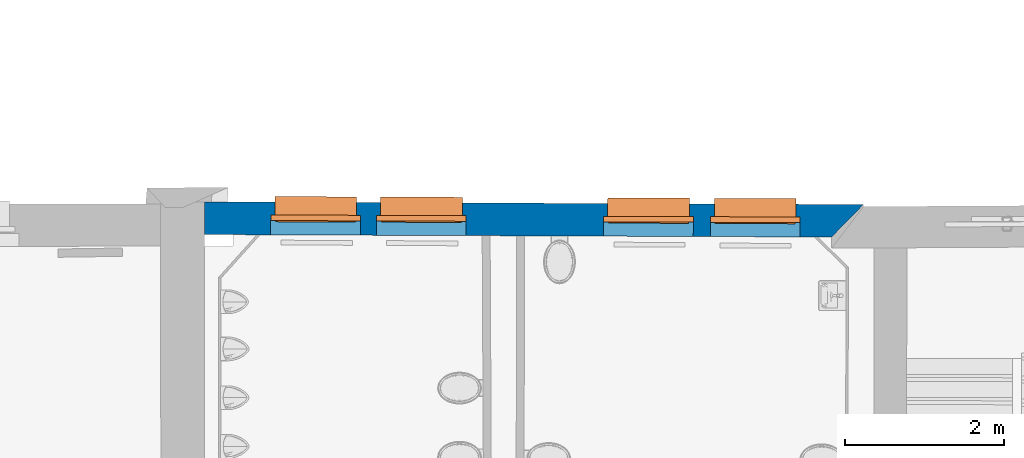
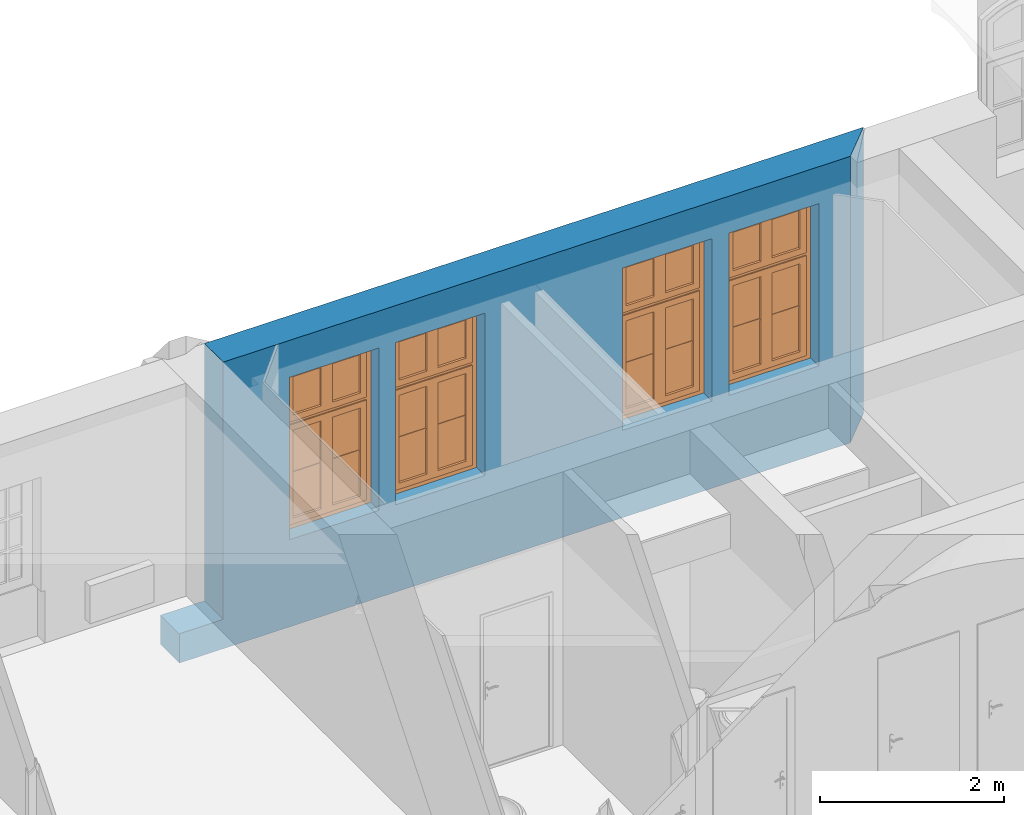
# One storey, part 42 of 158: 4 proxies, 1 wall, 4 openings.
"""IFC2X3 building model written with IfcOpenShell, lengths in metres."""

from ifc_helpers import new_model, entity, si_unit, converted_unit, derived_unit, money_unit, direction, frame, origin_with_axes, origin_2d_with_axis, place, context, subcontext, project, spatial, polyline, rectangle, outline, extrude, boolean, faceted_brep, source, transform, mapped, material, type_object, element, fill, save


model = new_model("IFC2X3")

# Units and contexts
model_context = context("Model", 3, precision=1e-05, world=origin_with_axes(), true_north=direction((0.0, 1.0)))
body_context = subcontext(model_context, "Body", "Model", "MODEL_VIEW")
ifc_project = project(units=[si_unit("LENGTHUNIT", "METRE"), si_unit("AREAUNIT", "SQUARE_METRE"), si_unit("VOLUMEUNIT", "CUBIC_METRE"), converted_unit("PLANEANGLEUNIT", "DEGREE", entity("IfcPlaneAngleMeasure", 0.0174532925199), si_unit("PLANEANGLEUNIT", "RADIAN"), dimensions=[0, 0, 0, 0, 0, 0, 0]), money_unit("EUR"), converted_unit("TIMEUNIT", "Year", entity("IfcTimeMeasure", 31556926.0), si_unit("TIMEUNIT", "SECOND"), dimensions=[0, 0, 1, 0, 0, 0, 0]), si_unit("MASSUNIT", "GRAM", prefix="KILO"), si_unit("THERMODYNAMICTEMPERATUREUNIT", "DEGREE_CELSIUS"), si_unit("LUMINOUSINTENSITYUNIT", "LUMEN"), si_unit("ENERGYUNIT", "JOULE", prefix="MEGA"), derived_unit("THERMALCONDUCTANCEUNIT", [(si_unit("POWERUNIT", "WATT"), 1), (si_unit("LENGTHUNIT", "METRE"), -1), (si_unit("THERMODYNAMICTEMPERATUREUNIT", "KELVIN"), -1)]), derived_unit("SPECIFICHEATCAPACITYUNIT", [(si_unit("ENERGYUNIT", "JOULE"), 1), (si_unit("MASSUNIT", "GRAM", prefix="KILO"), -1), (si_unit("THERMODYNAMICTEMPERATUREUNIT", "KELVIN"), -1)]), derived_unit("MASSDENSITYUNIT", [(si_unit("MASSUNIT", "GRAM", prefix="KILO"), 1), (si_unit("VOLUMEUNIT", "CUBIC_METRE"), -1)])], contexts=[model_context])

# Site, building, storey
site_placement = place(None, origin_with_axes())
site = spatial("IfcSite", under=ifc_project, at=site_placement, Name="Gelände", CompositionType="ELEMENT")
building_placement = place(site_placement, origin_with_axes())
building = spatial("IfcBuilding", under=site, at=building_placement, Name="Gebäude", CompositionType="ELEMENT")
storey_placement = place(building_placement, origin_with_axes())
storey = spatial("IfcBuildingStorey", under=building, at=storey_placement, Name="ERDGESCHOSS", CompositionType="ELEMENT", Elevation=0.0)

# Wall, openings, proxies
ifc_material = material(Name="05_ALLGEMEIN - TRAGENDE BAUTEILE")
wall_type = type_object("IfcWallType", Name="05_ALLGEMEIN - TRAGENDE BAUTEILE 410", PredefinedType="ELEMENTEDWALL")
wall_placement = place(storey_placement, frame((21.3567077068, 26.1948777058, -0.210000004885), z_axis=(0.0, 0.0, 1.0), x_axis=(-0.999992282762, 0.00392866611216, 0.0)))
wall = element("IfcWall", 1, at=wall_placement, inside=storey, type_object=wall_type, material=ifc_material, Name="Wand-033", ObjectType="ELEMENTEDWALL", context=body_context, shape_type="CSG", body=[
    boolean("DIFFERENCE", boolean("DIFFERENCE", extrude(outline(polyline([(-0.00161076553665, 0.0), (8.81806653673, 0.0), (8.81806653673, 0.41), (-0.00161076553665, 0.41), (-0.00161076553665, 0.0)])), origin_with_axes(), (0.0, 0.0, 1.0), 3.81000000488), faceted_brep([(8.81806653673, 0.41, 0.390000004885), (8.2663559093, 0.41, 0.390000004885), (8.2663559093, 0.41, 3.81000000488), (8.81806653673, 0.41, 3.81000000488), (8.81806653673, 0.0, 0.390000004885), (8.26806177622, 0.0, 0.390000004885), (8.26806177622, 0.0, 3.81000000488), (8.81806653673, 0.0, 3.81000000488)], [[[0, 1, 2, 3]], [[1, 0, 4, 5]], [[6, 2, 1, 5]], [[2, 6, 7, 3]], [[4, 0, 3, 7]], [[5, 4, 7, 6]]])), faceted_brep([(0.0, 0.0, 0.0), (0.0, 0.0, 3.81000000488), (-0.00161076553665, 0.0, 3.81000000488), (-0.00161076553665, 0.0, 0.0), (0.398392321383, 0.41, 3.81000000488), (0.398392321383, 0.41, 0.0), (-0.00161076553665, 0.41, 3.81000000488), (-0.00161076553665, 0.41, 0.0)], [[[0, 1, 2, 3]], [[4, 1, 0, 5]], [[1, 4, 6, 2]], [[6, 7, 3, 2]], [[5, 0, 3, 7]], [[4, 5, 7, 6]]])),
])
opening_1_placement = place(wall_placement, frame((1.35717908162, 0.0, 1.15997285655), z_axis=(0.0, 0.0, 1.0), x_axis=(1.0, 0.0, 0.0)))
opening_1 = element("IfcOpeningElement", 2, at=opening_1_placement, cuts=wall, Name="Fenster-015", context=body_context, shape_type="SweptSolid", body=[
    extrude(rectangle(XDim=1.12454376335, YDim=2.15932177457, at=origin_2d_with_axis()), frame((0.0, 0.160251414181, 1.07966088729), z_axis=(0.0, -1.0, 0.0), x_axis=(1.0, 0.0, 0.0)), (0.0, 0.0, -1.0), 0.659748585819),
    extrude(rectangle(XDim=1.02454376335, YDim=2.10932177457, at=origin_2d_with_axis()), frame((0.0, 0.160251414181, 1.05466088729), z_axis=(0.0, 1.0, 0.0), x_axis=(1.0, 0.0, 0.0)), (0.0, 0.0, -1.0), 0.570251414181),
    extrude(rectangle(XDim=1.02454376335, YDim=0.153634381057, at=origin_2d_with_axis()), frame((0.0, 0.201089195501, -0.0768171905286), z_axis=(0.0, 1.0, 0.0), x_axis=(1.0, 0.0, 0.0)), (0.0, 0.0, -1.0), 0.45083778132),
])
opening_2_placement = place(wall_placement, frame((2.69629738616, 0.0, 1.15997285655), z_axis=(0.0, 0.0, 1.0), x_axis=(1.0, 0.0, 0.0)))
opening_2 = element("IfcOpeningElement", 3, at=opening_2_placement, cuts=wall, Name="Fenster-015", context=body_context, shape_type="SweptSolid", body=[
    extrude(rectangle(XDim=1.12454376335, YDim=2.15932177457, at=origin_2d_with_axis()), frame((0.0, 0.160251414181, 1.07966088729), z_axis=(0.0, -1.0, 0.0), x_axis=(1.0, 0.0, 0.0)), (0.0, 0.0, -1.0), 0.659748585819),
    extrude(rectangle(XDim=1.02454376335, YDim=2.10932177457, at=origin_2d_with_axis()), frame((0.0, 0.160251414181, 1.05466088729), z_axis=(0.0, 1.0, 0.0), x_axis=(1.0, 0.0, 0.0)), (0.0, 0.0, -1.0), 0.570251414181),
    extrude(rectangle(XDim=1.02454376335, YDim=0.153634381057, at=origin_2d_with_axis()), frame((0.0, 0.201089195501, -0.0768171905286), z_axis=(0.0, 1.0, 0.0), x_axis=(1.0, 0.0, 0.0)), (0.0, 0.0, -1.0), 0.45083778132),
])
opening_3_placement = place(wall_placement, frame((5.54568931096, 0.0, 1.15997285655), z_axis=(0.0, 0.0, 1.0), x_axis=(1.0, 0.0, 0.0)))
opening_3 = element("IfcOpeningElement", 4, at=opening_3_placement, cuts=wall, Name="Fenster-015", context=body_context, shape_type="SweptSolid", body=[
    extrude(rectangle(XDim=1.12454376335, YDim=2.15932177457, at=origin_2d_with_axis()), frame((0.0, 0.160251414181, 1.07966088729), z_axis=(0.0, -1.0, 0.0), x_axis=(1.0, 0.0, 0.0)), (0.0, 0.0, -1.0), 0.659748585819),
    extrude(rectangle(XDim=1.02454376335, YDim=2.10932177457, at=origin_2d_with_axis()), frame((0.0, 0.160251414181, 1.05466088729), z_axis=(0.0, 1.0, 0.0), x_axis=(1.0, 0.0, 0.0)), (0.0, 0.0, -1.0), 0.570251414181),
    extrude(rectangle(XDim=1.02454376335, YDim=0.153634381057, at=origin_2d_with_axis()), frame((0.0, 0.201089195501, -0.0768171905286), z_axis=(0.0, 1.0, 0.0), x_axis=(1.0, 0.0, 0.0)), (0.0, 0.0, -1.0), 0.45083778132),
])
opening_4_placement = place(wall_placement, frame((6.87393426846, 0.0, 1.15997285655), z_axis=(0.0, 0.0, 1.0), x_axis=(1.0, 0.0, 0.0)))
opening_4 = element("IfcOpeningElement", 5, at=opening_4_placement, cuts=wall, Name="Fenster-015", context=body_context, shape_type="SweptSolid", body=[
    extrude(rectangle(XDim=1.12454376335, YDim=2.15932177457, at=origin_2d_with_axis()), frame((0.0, 0.160251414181, 1.07966088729), z_axis=(0.0, -1.0, 0.0), x_axis=(1.0, 0.0, 0.0)), (0.0, 0.0, -1.0), 0.659748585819),
    extrude(rectangle(XDim=1.02454376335, YDim=2.10932177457, at=origin_2d_with_axis()), frame((0.0, 0.160251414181, 1.05466088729), z_axis=(0.0, 1.0, 0.0), x_axis=(1.0, 0.0, 0.0)), (0.0, 0.0, -1.0), 0.570251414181),
    extrude(rectangle(XDim=1.02454376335, YDim=0.153634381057, at=origin_2d_with_axis()), frame((0.0, 0.201089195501, -0.0768171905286), z_axis=(0.0, 1.0, 0.0), x_axis=(1.0, 0.0, 0.0)), (0.0, 0.0, -1.0), 0.45083778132),
])
building_element_proxy_type = type_object("IfcBuildingElementProxyType", Name="2-Flügelfenster 25", PredefinedType="NOTDEFINED")
shared_shape = source(origin_with_axes(), body_context, "Body", "Brep", [
    faceted_brep([(-0.512271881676, -0.05, 0.0), (-0.512271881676, -0.301089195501, -0.0442737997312), (0.512271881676, -0.301089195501, -0.0442737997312), (0.512271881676, -0.05, 0.0), (-0.512271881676, -0.02916221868, -0.118176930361), (-0.512271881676, -0.280251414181, -0.162450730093), (0.512271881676, -0.280251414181, -0.162450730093), (0.512271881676, -0.02916221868, -0.118176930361)], [[[0, 1, 2, 3]], [[0, 4, 5, 1]], [[1, 5, 6, 2]], [[3, 2, 6, 7]], [[4, 0, 3, 7]], [[5, 4, 7, 6]]]),
    faceted_brep([(-0.562271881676, -0.07, 0.0), (-0.562271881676, 0.0, 0.0), (-0.482271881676, 0.0, 0.08), (-0.482271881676, -0.07, 0.08), (-0.562271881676, -0.07, 2.15932177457), (-0.562271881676, 0.0, 2.15932177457), (-0.482271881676, 0.0, 2.07932177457), (-0.482271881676, 0.0, 1.44890543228), (-0.482271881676, 0.0, 1.36890543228), (-0.482271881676, -0.07, 1.36890543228), (-0.482271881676, -0.07, 1.44890543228), (-0.482271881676, -0.07, 2.07932177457)], [[[0, 1, 2, 3]], [[4, 5, 1, 0]], [[1, 5, 6, 7, 8, 2]], [[3, 2, 8, 9]], [[0, 3, 9, 10, 11, 4]], [[11, 6, 5, 4]], [[10, 7, 6, 11]], [[9, 8, 7, 10]]]),
    faceted_brep([(0.562271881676, -0.07, 0.0), (0.562271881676, 0.0, 0.0), (0.562271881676, 0.0, 2.15932177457), (0.562271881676, -0.07, 2.15932177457), (0.482271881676, -0.07, 0.08), (0.482271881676, 0.0, 0.08), (0.482271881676, 0.0, 1.36890543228), (0.482271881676, 0.0, 1.44890543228), (0.482271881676, 0.0, 2.07932177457), (0.482271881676, -0.07, 2.07932177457), (0.482271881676, -0.07, 1.44890543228), (0.482271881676, -0.07, 1.36890543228)], [[[0, 1, 2, 3]], [[4, 5, 1, 0]], [[1, 5, 6, 7, 8, 2]], [[3, 2, 8, 9]], [[0, 3, 9, 10, 11, 4]], [[11, 6, 5, 4]], [[10, 7, 6, 11]], [[9, 8, 7, 10]]]),
    faceted_brep([(-0.562271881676, -0.07, 0.0), (-0.562271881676, 0.0, 0.0), (0.562271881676, 0.0, 0.0), (0.562271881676, -0.07, 0.0), (-0.482271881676, -0.07, 0.08), (-0.482271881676, 0.0, 0.08), (0.482271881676, 0.0, 0.08), (0.482271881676, -0.07, 0.08)], [[[0, 1, 2, 3]], [[4, 5, 1, 0]], [[1, 5, 6, 2]], [[3, 2, 6, 7]], [[0, 3, 7, 4]], [[7, 6, 5, 4]]]),
    faceted_brep([(-0.562271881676, -0.07, 2.15932177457), (-0.562271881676, 0.0, 2.15932177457), (-0.482271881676, 0.0, 2.07932177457), (-0.482271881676, -0.07, 2.07932177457), (0.562271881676, -0.07, 2.15932177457), (0.562271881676, 0.0, 2.15932177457), (0.482271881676, 0.0, 2.07932177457), (0.482271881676, -0.07, 2.07932177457)], [[[0, 1, 2, 3]], [[4, 5, 1, 0]], [[1, 5, 6, 2]], [[3, 2, 6, 7]], [[0, 3, 7, 4]], [[7, 6, 5, 4]]]),
    faceted_brep([(-0.482271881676, -0.07, 1.36890543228), (-0.482271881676, 0.0, 1.36890543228), (0.0, 0.0, 1.36890543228), (0.0, -0.07, 1.36890543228), (-0.482271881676, -0.07, 1.44890543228), (-0.482271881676, 0.0, 1.44890543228), (0.482271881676, 0.0, 1.44890543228), (0.482271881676, 0.0, 1.36890543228), (0.482271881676, -0.07, 1.36890543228), (0.482271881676, -0.07, 1.44890543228)], [[[0, 1, 2, 3]], [[4, 5, 1, 0]], [[1, 5, 6, 7, 2]], [[3, 2, 7, 8]], [[0, 3, 8, 9, 4]], [[9, 6, 5, 4]], [[8, 7, 6, 9]]]),
    faceted_brep([(-0.502271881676, 0.0, 0.06), (-0.502271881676, 0.015, 0.06), (-0.422271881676, 0.015, 0.14), (-0.422271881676, 0.0, 0.14), (-0.502271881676, 0.0, 1.38890543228), (-0.502271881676, 0.015, 1.38890543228), (-0.422271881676, 0.015, 1.30890543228), (-0.422271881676, 0.0, 1.30890543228)], [[[0, 1, 2, 3]], [[4, 5, 1, 0]], [[1, 5, 6, 2]], [[3, 2, 6, 7]], [[0, 3, 7, 4]], [[7, 6, 5, 4]]]),
    faceted_brep([(-0.01, 0.0, 0.06), (-0.01, 0.015, 0.06), (-0.01, 0.015, 1.38890543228), (-0.01, 0.0, 1.38890543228), (-0.07, 0.0, 0.14), (-0.07, 0.015, 0.14), (-0.07, 0.015, 1.30890543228), (-0.07, 0.0, 1.30890543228)], [[[0, 1, 2, 3]], [[4, 5, 1, 0]], [[1, 5, 6, 2]], [[3, 2, 6, 7]], [[0, 3, 7, 4]], [[7, 6, 5, 4]]]),
    faceted_brep([(-0.502271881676, 0.0, 0.06), (-0.502271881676, 0.015, 0.06), (-0.01, 0.015, 0.06), (-0.01, 0.0, 0.06), (-0.422271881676, 0.0, 0.14), (-0.422271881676, 0.015, 0.14), (-0.07, 0.015, 0.14), (-0.07, 0.0, 0.14)], [[[0, 1, 2, 3]], [[4, 5, 1, 0]], [[1, 5, 6, 2]], [[3, 2, 6, 7]], [[0, 3, 7, 4]], [[7, 6, 5, 4]]]),
    faceted_brep([(-0.502271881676, 0.0, 1.38890543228), (-0.502271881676, 0.015, 1.38890543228), (-0.422271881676, 0.015, 1.30890543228), (-0.422271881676, 0.0, 1.30890543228), (-0.01, 0.0, 1.38890543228), (-0.01, 0.015, 1.38890543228), (-0.07, 0.015, 1.30890543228), (-0.07, 0.0, 1.30890543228)], [[[0, 1, 2, 3]], [[4, 5, 1, 0]], [[1, 5, 6, 2]], [[3, 2, 6, 7]], [[0, 3, 7, 4]], [[7, 6, 5, 4]]]),
    faceted_brep([(-0.482271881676, -0.055, 0.08), (-0.482271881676, 0.0, 0.08), (-0.422271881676, 0.0, 0.14), (-0.422271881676, -0.055, 0.14), (-0.482271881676, -0.055, 1.36890543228), (-0.482271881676, 0.0, 1.36890543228), (-0.422271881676, 0.0, 1.30890543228), (-0.422271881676, -0.055, 1.30890543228)], [[[0, 1, 2, 3]], [[4, 5, 1, 0]], [[1, 5, 6, 2]], [[3, 2, 6, 7]], [[0, 3, 7, 4]], [[7, 6, 5, 4]]]),
    faceted_brep([(0.01, -0.055, 0.08), (0.01, 0.0, 0.08), (0.01, 0.0, 1.36890543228), (0.01, -0.055, 1.36890543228), (-0.07, -0.055, 0.14), (-0.07, 0.0, 0.14), (-0.07, 0.0, 1.30890543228), (-0.07, -0.055, 1.30890543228)], [[[0, 1, 2, 3]], [[4, 5, 1, 0]], [[1, 5, 6, 2]], [[3, 2, 6, 7]], [[0, 3, 7, 4]], [[7, 6, 5, 4]]]),
    faceted_brep([(-0.482271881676, -0.055, 0.08), (-0.482271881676, 0.0, 0.08), (0.01, 0.0, 0.08), (0.01, -0.055, 0.08), (-0.422271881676, -0.055, 0.14), (-0.422271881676, 0.0, 0.14), (-0.07, 0.0, 0.14), (-0.07, -0.055, 0.14)], [[[0, 1, 2, 3]], [[4, 5, 1, 0]], [[1, 5, 6, 2]], [[3, 2, 6, 7]], [[0, 3, 7, 4]], [[7, 6, 5, 4]]]),
    faceted_brep([(-0.482271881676, -0.055, 1.36890543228), (-0.482271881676, 0.0, 1.36890543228), (-0.422271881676, 0.0, 1.30890543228), (-0.422271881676, -0.055, 1.30890543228), (0.01, -0.055, 1.36890543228), (0.01, 0.0, 1.36890543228), (-0.07, 0.0, 1.30890543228), (-0.07, -0.055, 1.30890543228)], [[[0, 1, 2, 3]], [[4, 5, 1, 0]], [[1, 5, 6, 2]], [[3, 2, 6, 7]], [[0, 3, 7, 4]], [[7, 6, 5, 4]]]),
    faceted_brep([(-0.422271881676, -0.0325, 0.711952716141), (-0.422271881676, -0.02, 0.711952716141), (-0.07, -0.02, 0.711952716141), (-0.07, -0.0325, 0.711952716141), (-0.422271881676, -0.0325, 0.736952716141), (-0.422271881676, -0.02, 0.736952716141), (-0.07, -0.02, 0.736952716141), (-0.07, -0.0325, 0.736952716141)], [[[0, 1, 2, 3]], [[4, 5, 1, 0]], [[1, 5, 6, 2]], [[3, 2, 6, 7]], [[0, 3, 7, 4]], [[7, 6, 5, 4]]]),
    faceted_brep([(-0.422271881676, -0.02, 0.711952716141), (-0.422271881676, -0.0075, 0.711952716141), (-0.07, -0.0075, 0.711952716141), (-0.07, -0.02, 0.711952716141), (-0.422271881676, -0.02, 0.736952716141), (-0.422271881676, -0.0075, 0.736952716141), (-0.07, -0.0075, 0.736952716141), (-0.07, -0.02, 0.736952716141)], [[[0, 1, 2, 3]], [[4, 5, 1, 0]], [[1, 5, 6, 2]], [[3, 2, 6, 7]], [[0, 3, 7, 4]], [[7, 6, 5, 4]]]),
    faceted_brep([(-0.07, -0.015, 0.711952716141), (-0.07, -0.025, 0.711952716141), (-0.07, -0.025, 0.14), (-0.07, -0.015, 0.14), (-0.422271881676, -0.025, 0.711952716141), (-0.422271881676, -0.015, 0.711952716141), (-0.422271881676, -0.025, 0.14), (-0.422271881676, -0.015, 0.14)], [[[0, 1, 2, 3]], [[4, 1, 0, 5]], [[1, 4, 6, 2]], [[7, 3, 2, 6]], [[5, 0, 3, 7]], [[4, 5, 7, 6]]]),
    faceted_brep([(-0.422271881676, -0.025, 0.736952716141), (-0.07, -0.025, 0.736952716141), (-0.07, -0.025, 1.30890543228), (-0.422271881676, -0.025, 1.30890543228), (-0.07, -0.015, 0.736952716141), (-0.422271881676, -0.015, 0.736952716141), (-0.07, -0.015, 1.30890543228), (-0.422271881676, -0.015, 1.30890543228)], [[[0, 1, 2, 3]], [[4, 1, 0, 5]], [[1, 4, 6, 2]], [[6, 7, 3, 2]], [[5, 0, 3, 7]], [[4, 5, 7, 6]]]),
    faceted_brep([(-0.01, 0.0, 0.06), (-0.01, 0.015, 0.06), (0.07, 0.015, 0.14), (0.07, 0.0, 0.14), (-0.01, 0.0, 1.38890543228), (-0.01, 0.015, 1.38890543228), (0.07, 0.015, 1.30890543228), (0.07, 0.0, 1.30890543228)], [[[0, 1, 2, 3]], [[4, 5, 1, 0]], [[1, 5, 6, 2]], [[3, 2, 6, 7]], [[0, 3, 7, 4]], [[7, 6, 5, 4]]]),
    faceted_brep([(0.502271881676, 0.0, 0.06), (0.422271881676, 0.0, 0.14), (0.422271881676, 0.015, 0.14), (0.502271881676, 0.015, 0.06), (0.502271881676, 0.0, 1.38890543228), (0.422271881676, 0.0, 1.30890543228), (0.422271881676, 0.015, 1.30890543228), (0.502271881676, 0.015, 1.38890543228)], [[[0, 1, 2, 3]], [[0, 4, 5, 1]], [[1, 5, 6, 2]], [[3, 2, 6, 7]], [[4, 0, 3, 7]], [[5, 4, 7, 6]]]),
    faceted_brep([(-0.01, 0.0, 0.06), (-0.01, 0.015, 0.06), (0.502271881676, 0.015, 0.06), (0.502271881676, 0.0, 0.06), (0.07, 0.0, 0.14), (0.07, 0.015, 0.14), (0.422271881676, 0.015, 0.14), (0.422271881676, 0.0, 0.14)], [[[0, 1, 2, 3]], [[4, 5, 1, 0]], [[1, 5, 6, 2]], [[3, 2, 6, 7]], [[0, 3, 7, 4]], [[7, 6, 5, 4]]]),
    faceted_brep([(-0.01, 0.0, 1.38890543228), (0.502271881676, 0.0, 1.38890543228), (0.502271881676, 0.015, 1.38890543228), (-0.01, 0.015, 1.38890543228), (0.07, 0.0, 1.30890543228), (0.422271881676, 0.0, 1.30890543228), (0.422271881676, 0.015, 1.30890543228), (0.07, 0.015, 1.30890543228)], [[[0, 1, 2, 3]], [[0, 4, 5, 1]], [[1, 5, 6, 2]], [[3, 2, 6, 7]], [[4, 0, 3, 7]], [[5, 4, 7, 6]]]),
    faceted_brep([(0.01, -0.055, 0.08), (0.01, 0.0, 0.08), (0.07, 0.0, 0.14), (0.07, -0.055, 0.14), (0.01, -0.055, 1.36890543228), (0.01, 0.0, 1.36890543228), (0.07, 0.0, 1.30890543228), (0.07, -0.055, 1.30890543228)], [[[0, 1, 2, 3]], [[4, 5, 1, 0]], [[1, 5, 6, 2]], [[3, 2, 6, 7]], [[0, 3, 7, 4]], [[7, 6, 5, 4]]]),
    faceted_brep([(0.482271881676, -0.055, 0.08), (0.422271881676, -0.055, 0.14), (0.422271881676, 0.0, 0.14), (0.482271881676, 0.0, 0.08), (0.482271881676, -0.055, 1.36890543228), (0.422271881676, -0.055, 1.30890543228), (0.422271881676, 0.0, 1.30890543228), (0.482271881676, 0.0, 1.36890543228)], [[[0, 1, 2, 3]], [[0, 4, 5, 1]], [[1, 5, 6, 2]], [[3, 2, 6, 7]], [[4, 0, 3, 7]], [[5, 4, 7, 6]]]),
    faceted_brep([(0.01, -0.055, 0.08), (0.01, 0.0, 0.08), (0.482271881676, 0.0, 0.08), (0.482271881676, -0.055, 0.08), (0.07, -0.055, 0.14), (0.07, 0.0, 0.14), (0.422271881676, 0.0, 0.14), (0.422271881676, -0.055, 0.14)], [[[0, 1, 2, 3]], [[4, 5, 1, 0]], [[1, 5, 6, 2]], [[3, 2, 6, 7]], [[0, 3, 7, 4]], [[7, 6, 5, 4]]]),
    faceted_brep([(0.01, -0.055, 1.36890543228), (0.482271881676, -0.055, 1.36890543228), (0.482271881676, 0.0, 1.36890543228), (0.01, 0.0, 1.36890543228), (0.07, -0.055, 1.30890543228), (0.422271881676, -0.055, 1.30890543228), (0.422271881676, 0.0, 1.30890543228), (0.07, 0.0, 1.30890543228)], [[[0, 1, 2, 3]], [[0, 4, 5, 1]], [[1, 5, 6, 2]], [[3, 2, 6, 7]], [[4, 0, 3, 7]], [[5, 4, 7, 6]]]),
    faceted_brep([(0.07, -0.0325, 0.711952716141), (0.07, -0.02, 0.711952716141), (0.422271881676, -0.02, 0.711952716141), (0.422271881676, -0.0325, 0.711952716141), (0.07, -0.0325, 0.736952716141), (0.07, -0.02, 0.736952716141), (0.422271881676, -0.02, 0.736952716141), (0.422271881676, -0.0325, 0.736952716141)], [[[0, 1, 2, 3]], [[4, 5, 1, 0]], [[1, 5, 6, 2]], [[3, 2, 6, 7]], [[0, 3, 7, 4]], [[7, 6, 5, 4]]]),
    faceted_brep([(0.07, -0.02, 0.711952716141), (0.07, -0.0075, 0.711952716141), (0.422271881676, -0.0075, 0.711952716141), (0.422271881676, -0.02, 0.711952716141), (0.07, -0.02, 0.736952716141), (0.07, -0.0075, 0.736952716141), (0.422271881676, -0.0075, 0.736952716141), (0.422271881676, -0.02, 0.736952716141)], [[[0, 1, 2, 3]], [[4, 5, 1, 0]], [[1, 5, 6, 2]], [[3, 2, 6, 7]], [[0, 3, 7, 4]], [[7, 6, 5, 4]]]),
    faceted_brep([(0.422271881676, -0.015, 0.711952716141), (0.422271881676, -0.025, 0.711952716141), (0.422271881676, -0.025, 0.14), (0.422271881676, -0.015, 0.14), (0.07, -0.025, 0.711952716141), (0.07, -0.015, 0.711952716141), (0.07, -0.025, 0.14), (0.07, -0.015, 0.14)], [[[0, 1, 2, 3]], [[4, 1, 0, 5]], [[1, 4, 6, 2]], [[7, 3, 2, 6]], [[5, 0, 3, 7]], [[4, 5, 7, 6]]]),
    faceted_brep([(0.07, -0.025, 0.736952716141), (0.422271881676, -0.025, 0.736952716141), (0.422271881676, -0.025, 1.30890543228), (0.07, -0.025, 1.30890543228), (0.422271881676, -0.015, 0.736952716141), (0.07, -0.015, 0.736952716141), (0.422271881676, -0.015, 1.30890543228), (0.07, -0.015, 1.30890543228)], [[[0, 1, 2, 3]], [[4, 1, 0, 5]], [[1, 4, 6, 2]], [[6, 7, 3, 2]], [[5, 0, 3, 7]], [[4, 5, 7, 6]]]),
    faceted_brep([(-0.502271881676, 0.0, 1.42890543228), (-0.502271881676, 0.015, 1.42890543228), (-0.422271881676, 0.015, 1.50890543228), (-0.422271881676, 0.0, 1.50890543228), (-0.502271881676, 0.0, 2.09932177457), (-0.502271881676, 0.015, 2.09932177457), (-0.422271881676, 0.015, 2.01932177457), (-0.422271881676, 0.0, 2.01932177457)], [[[0, 1, 2, 3]], [[4, 5, 1, 0]], [[1, 5, 6, 2]], [[3, 2, 6, 7]], [[0, 3, 7, 4]], [[7, 6, 5, 4]]]),
    faceted_brep([(-0.01, 0.0, 1.42890543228), (-0.01, 0.015, 1.42890543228), (-0.01, 0.015, 2.09932177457), (-0.01, 0.0, 2.09932177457), (-0.07, 0.0, 1.50890543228), (-0.07, 0.015, 1.50890543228), (-0.07, 0.015, 2.01932177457), (-0.07, 0.0, 2.01932177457)], [[[0, 1, 2, 3]], [[4, 5, 1, 0]], [[1, 5, 6, 2]], [[3, 2, 6, 7]], [[0, 3, 7, 4]], [[7, 6, 5, 4]]]),
    faceted_brep([(-0.502271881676, 0.0, 1.42890543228), (-0.502271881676, 0.015, 1.42890543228), (-0.01, 0.015, 1.42890543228), (-0.01, 0.0, 1.42890543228), (-0.422271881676, 0.0, 1.50890543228), (-0.422271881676, 0.015, 1.50890543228), (-0.07, 0.015, 1.50890543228), (-0.07, 0.0, 1.50890543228)], [[[0, 1, 2, 3]], [[4, 5, 1, 0]], [[1, 5, 6, 2]], [[3, 2, 6, 7]], [[0, 3, 7, 4]], [[7, 6, 5, 4]]]),
    faceted_brep([(-0.502271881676, 0.0, 2.09932177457), (-0.502271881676, 0.015, 2.09932177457), (-0.422271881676, 0.015, 2.01932177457), (-0.422271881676, 0.0, 2.01932177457), (-0.01, 0.0, 2.09932177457), (-0.01, 0.015, 2.09932177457), (-0.07, 0.015, 2.01932177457), (-0.07, 0.0, 2.01932177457)], [[[0, 1, 2, 3]], [[4, 5, 1, 0]], [[1, 5, 6, 2]], [[3, 2, 6, 7]], [[0, 3, 7, 4]], [[7, 6, 5, 4]]]),
    faceted_brep([(-0.482271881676, -0.055, 1.44890543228), (-0.482271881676, 0.0, 1.44890543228), (-0.422271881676, 0.0, 1.50890543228), (-0.422271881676, -0.055, 1.50890543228), (-0.482271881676, -0.055, 2.07932177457), (-0.482271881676, 0.0, 2.07932177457), (-0.422271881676, 0.0, 2.01932177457), (-0.422271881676, -0.055, 2.01932177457)], [[[0, 1, 2, 3]], [[4, 5, 1, 0]], [[1, 5, 6, 2]], [[3, 2, 6, 7]], [[0, 3, 7, 4]], [[7, 6, 5, 4]]]),
    faceted_brep([(0.01, -0.055, 1.44890543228), (0.01, 0.0, 1.44890543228), (0.01, 0.0, 2.07932177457), (0.01, -0.055, 2.07932177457), (-0.07, -0.055, 1.50890543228), (-0.07, 0.0, 1.50890543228), (-0.07, 0.0, 2.01932177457), (-0.07, -0.055, 2.01932177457)], [[[0, 1, 2, 3]], [[4, 5, 1, 0]], [[1, 5, 6, 2]], [[3, 2, 6, 7]], [[0, 3, 7, 4]], [[7, 6, 5, 4]]]),
    faceted_brep([(-0.482271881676, -0.055, 1.44890543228), (-0.482271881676, 0.0, 1.44890543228), (0.01, 0.0, 1.44890543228), (0.01, -0.055, 1.44890543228), (-0.422271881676, -0.055, 1.50890543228), (-0.422271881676, 0.0, 1.50890543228), (-0.07, 0.0, 1.50890543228), (-0.07, -0.055, 1.50890543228)], [[[0, 1, 2, 3]], [[4, 5, 1, 0]], [[1, 5, 6, 2]], [[3, 2, 6, 7]], [[0, 3, 7, 4]], [[7, 6, 5, 4]]]),
    faceted_brep([(-0.482271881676, -0.055, 2.07932177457), (-0.482271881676, 0.0, 2.07932177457), (-0.422271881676, 0.0, 2.01932177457), (-0.422271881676, -0.055, 2.01932177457), (0.01, -0.055, 2.07932177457), (0.01, 0.0, 2.07932177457), (-0.07, 0.0, 2.01932177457), (-0.07, -0.055, 2.01932177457)], [[[0, 1, 2, 3]], [[4, 5, 1, 0]], [[1, 5, 6, 2]], [[3, 2, 6, 7]], [[0, 3, 7, 4]], [[7, 6, 5, 4]]]),
    faceted_brep([(-0.422271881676, -0.025, 1.50890543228), (-0.422271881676, -0.015, 1.50890543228), (-0.07, -0.015, 1.50890543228), (-0.07, -0.025, 1.50890543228), (-0.422271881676, -0.025, 2.01932177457), (-0.422271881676, -0.015, 2.01932177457), (-0.07, -0.015, 2.01932177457), (-0.07, -0.025, 2.01932177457)], [[[0, 1, 2, 3]], [[4, 5, 1, 0]], [[1, 5, 6, 2]], [[3, 2, 6, 7]], [[0, 3, 7, 4]], [[7, 6, 5, 4]]]),
    faceted_brep([(-0.01, 0.0, 1.42890543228), (-0.01, 0.015, 1.42890543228), (0.07, 0.015, 1.50890543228), (0.07, 0.0, 1.50890543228), (-0.01, 0.0, 2.09932177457), (-0.01, 0.015, 2.09932177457), (0.07, 0.015, 2.01932177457), (0.07, 0.0, 2.01932177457)], [[[0, 1, 2, 3]], [[4, 5, 1, 0]], [[1, 5, 6, 2]], [[3, 2, 6, 7]], [[0, 3, 7, 4]], [[7, 6, 5, 4]]]),
    faceted_brep([(0.502271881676, 0.0, 1.42890543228), (0.422271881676, 0.0, 1.50890543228), (0.422271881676, 0.015, 1.50890543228), (0.502271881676, 0.015, 1.42890543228), (0.502271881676, 0.0, 2.09932177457), (0.422271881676, 0.0, 2.01932177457), (0.422271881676, 0.015, 2.01932177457), (0.502271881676, 0.015, 2.09932177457)], [[[0, 1, 2, 3]], [[0, 4, 5, 1]], [[1, 5, 6, 2]], [[3, 2, 6, 7]], [[4, 0, 3, 7]], [[5, 4, 7, 6]]]),
    faceted_brep([(-0.01, 0.0, 1.42890543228), (-0.01, 0.015, 1.42890543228), (0.502271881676, 0.015, 1.42890543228), (0.502271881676, 0.0, 1.42890543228), (0.07, 0.0, 1.50890543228), (0.07, 0.015, 1.50890543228), (0.422271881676, 0.015, 1.50890543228), (0.422271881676, 0.0, 1.50890543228)], [[[0, 1, 2, 3]], [[4, 5, 1, 0]], [[1, 5, 6, 2]], [[3, 2, 6, 7]], [[0, 3, 7, 4]], [[7, 6, 5, 4]]]),
    faceted_brep([(-0.01, 0.0, 2.09932177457), (0.502271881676, 0.0, 2.09932177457), (0.502271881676, 0.015, 2.09932177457), (-0.01, 0.015, 2.09932177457), (0.07, 0.0, 2.01932177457), (0.422271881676, 0.0, 2.01932177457), (0.422271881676, 0.015, 2.01932177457), (0.07, 0.015, 2.01932177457)], [[[0, 1, 2, 3]], [[0, 4, 5, 1]], [[1, 5, 6, 2]], [[3, 2, 6, 7]], [[4, 0, 3, 7]], [[5, 4, 7, 6]]]),
    faceted_brep([(0.01, -0.055, 1.44890543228), (0.01, 0.0, 1.44890543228), (0.07, 0.0, 1.50890543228), (0.07, -0.055, 1.50890543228), (0.01, -0.055, 2.07932177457), (0.01, 0.0, 2.07932177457), (0.07, 0.0, 2.01932177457), (0.07, -0.055, 2.01932177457)], [[[0, 1, 2, 3]], [[4, 5, 1, 0]], [[1, 5, 6, 2]], [[3, 2, 6, 7]], [[0, 3, 7, 4]], [[7, 6, 5, 4]]]),
    faceted_brep([(0.482271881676, -0.055, 1.44890543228), (0.422271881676, -0.055, 1.50890543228), (0.422271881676, 0.0, 1.50890543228), (0.482271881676, 0.0, 1.44890543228), (0.482271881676, -0.055, 2.07932177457), (0.422271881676, -0.055, 2.01932177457), (0.422271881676, 0.0, 2.01932177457), (0.482271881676, 0.0, 2.07932177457)], [[[0, 1, 2, 3]], [[0, 4, 5, 1]], [[1, 5, 6, 2]], [[3, 2, 6, 7]], [[4, 0, 3, 7]], [[5, 4, 7, 6]]]),
    faceted_brep([(0.01, -0.055, 1.44890543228), (0.01, 0.0, 1.44890543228), (0.482271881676, 0.0, 1.44890543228), (0.482271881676, -0.055, 1.44890543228), (0.07, -0.055, 1.50890543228), (0.07, 0.0, 1.50890543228), (0.422271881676, 0.0, 1.50890543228), (0.422271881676, -0.055, 1.50890543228)], [[[0, 1, 2, 3]], [[4, 5, 1, 0]], [[1, 5, 6, 2]], [[3, 2, 6, 7]], [[0, 3, 7, 4]], [[7, 6, 5, 4]]]),
    faceted_brep([(0.01, -0.055, 2.07932177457), (0.482271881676, -0.055, 2.07932177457), (0.482271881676, 0.0, 2.07932177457), (0.01, 0.0, 2.07932177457), (0.07, -0.055, 2.01932177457), (0.422271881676, -0.055, 2.01932177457), (0.422271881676, 0.0, 2.01932177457), (0.07, 0.0, 2.01932177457)], [[[0, 1, 2, 3]], [[0, 4, 5, 1]], [[1, 5, 6, 2]], [[3, 2, 6, 7]], [[4, 0, 3, 7]], [[5, 4, 7, 6]]]),
    faceted_brep([(0.07, -0.025, 1.50890543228), (0.07, -0.015, 1.50890543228), (0.422271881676, -0.015, 1.50890543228), (0.422271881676, -0.025, 1.50890543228), (0.07, -0.025, 2.01932177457), (0.07, -0.015, 2.01932177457), (0.422271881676, -0.015, 2.01932177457), (0.422271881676, -0.025, 2.01932177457)], [[[0, 1, 2, 3]], [[4, 5, 1, 0]], [[1, 5, 6, 2]], [[3, 2, 6, 7]], [[0, 3, 7, 4]], [[7, 6, 5, 4]]]),
])
proxy_1_placement = place(opening_1_placement, frame((-0.562271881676, 0.0, 0.0), z_axis=(0.0, 0.0, 1.0), x_axis=(1.0, 0.0, 0.0)))
proxy_1 = element("IfcBuildingElementProxy", 6, at=proxy_1_placement, inside=storey, type_object=building_element_proxy_type, Name="Fenster-015", context=body_context, shape_type="MappedRepresentation", body=[
    mapped(shared_shape, transform((0.562271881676, 0.230251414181, 0.0))),
])
fill(opening_1, proxy_1)
proxy_2_placement = place(opening_2_placement, frame((-0.562271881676, 0.0, 0.0), z_axis=(0.0, 0.0, 1.0), x_axis=(1.0, 0.0, 0.0)))
proxy_2 = element("IfcBuildingElementProxy", 7, at=proxy_2_placement, inside=storey, type_object=building_element_proxy_type, Name="Fenster-015", context=body_context, shape_type="MappedRepresentation", body=[
    mapped(shared_shape, transform((0.562271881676, 0.230251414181, 0.0))),
])
fill(opening_2, proxy_2)
proxy_3_placement = place(opening_3_placement, frame((-0.562271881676, 0.0, 0.0), z_axis=(0.0, 0.0, 1.0), x_axis=(1.0, 0.0, 0.0)))
proxy_3 = element("IfcBuildingElementProxy", 8, at=proxy_3_placement, inside=storey, type_object=building_element_proxy_type, Name="Fenster-015", context=body_context, shape_type="MappedRepresentation", body=[
    mapped(shared_shape, transform((0.562271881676, 0.230251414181, 0.0))),
])
fill(opening_3, proxy_3)
proxy_4_placement = place(opening_4_placement, frame((-0.562271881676, 0.0, 0.0), z_axis=(0.0, 0.0, 1.0), x_axis=(1.0, 0.0, 0.0)))
proxy_4 = element("IfcBuildingElementProxy", 9, at=proxy_4_placement, inside=storey, type_object=building_element_proxy_type, Name="Fenster-015", context=body_context, shape_type="MappedRepresentation", body=[
    mapped(shared_shape, transform((0.562271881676, 0.230251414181, 0.0))),
])
fill(opening_4, proxy_4)

save(model, "model.ifc")
